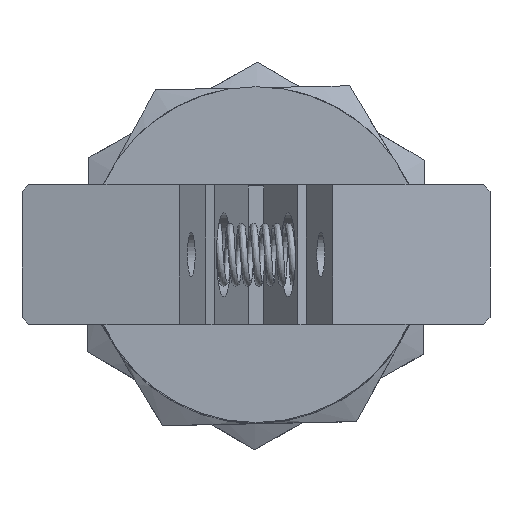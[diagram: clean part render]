
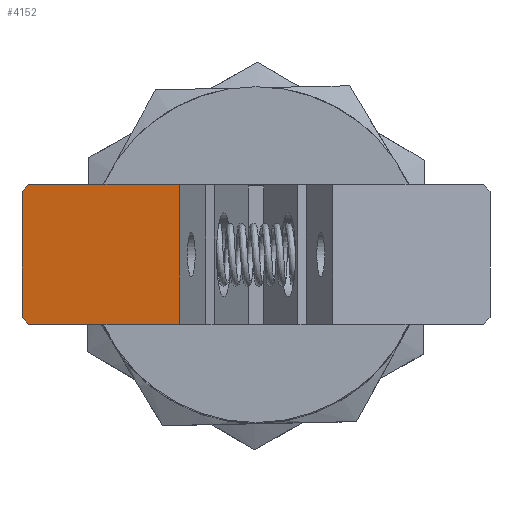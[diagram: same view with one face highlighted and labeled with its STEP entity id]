
A CAD part, top view. The second image highlights one B-rep face of the part: STEP entity #4152.
In plain terms, the highlighted planar face has unit normal (-0.174, 0, 0.985).
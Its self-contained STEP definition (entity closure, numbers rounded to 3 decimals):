
#110 = EDGE_CURVE ( 'NONE', #2118, #4668, #4459, .T. ) ;
#139 = CARTESIAN_POINT ( 'NONE',  ( -2.748, 2.5, 25.118 ) ) ;
#164 = VERTEX_POINT ( 'NONE', #471 ) ;
#208 = DIRECTION ( 'NONE',  ( 0.696, -0.707, 0.123 ) ) ;
#235 = VECTOR ( 'NONE', #896, 1000. ) ;
#455 = CARTESIAN_POINT ( 'NONE',  ( -8.361, -2.5, 24.129 ) ) ;
#471 = CARTESIAN_POINT ( 'NONE',  ( -8.115, -2.5, 24.172 ) ) ;
#473 = VECTOR ( 'NONE', #1783, 1000. ) ;
#662 = ORIENTED_EDGE ( 'NONE', *, *, #1898, .F. ) ;
#896 = DIRECTION ( 'NONE',  ( 0.985, 0., 0.174 ) ) ;
#928 = PLANE ( 'NONE',  #3067 ) ;
#1117 = CARTESIAN_POINT ( 'NONE',  ( -8.115, 2.5, 24.172 ) ) ;
#1253 = DIRECTION ( 'NONE',  ( 0.174, 0., -0.985 ) ) ;
#1265 = LINE ( 'NONE', #455, #2475 ) ;
#1703 = VERTEX_POINT ( 'NONE', #4942 ) ;
#1783 = DIRECTION ( 'NONE',  ( 0., -1., 0. ) ) ;
#1801 = VERTEX_POINT ( 'NONE', #3747 ) ;
#1898 = EDGE_CURVE ( 'NONE', #1703, #1801, #3823, .T. ) ;
#1961 = CARTESIAN_POINT ( 'NONE',  ( -8.361, 2.25, 24.129 ) ) ;
#2118 = VERTEX_POINT ( 'NONE', #1961 ) ;
#2210 = VERTEX_POINT ( 'NONE', #1117 ) ;
#2247 = LINE ( 'NONE', #4817, #3343 ) ;
#2304 = EDGE_CURVE ( 'NONE', #2210, #2118, #4071, .T. ) ;
#2475 = VECTOR ( 'NONE', #3323, 1000. ) ;
#2950 = EDGE_CURVE ( 'NONE', #2210, #1703, #3699, .T. ) ;
#2982 = CARTESIAN_POINT ( 'NONE',  ( -8.361, 2.5, 24.129 ) ) ;
#3067 = AXIS2_PLACEMENT_3D ( 'NONE', #5071, #1253, #4655 ) ;
#3071 = ORIENTED_EDGE ( 'NONE', *, *, #2950, .F. ) ;
#3207 = CARTESIAN_POINT ( 'NONE',  ( -8.361, -2.25, 24.129 ) ) ;
#3323 = DIRECTION ( 'NONE',  ( 0.985, 0., 0.174 ) ) ;
#3343 = VECTOR ( 'NONE', #208, 1000. ) ;
#3582 = EDGE_CURVE ( 'NONE', #164, #1801, #1265, .T. ) ;
#3619 = DIRECTION ( 'NONE',  ( 0., -1., 0. ) ) ;
#3682 = ORIENTED_EDGE ( 'NONE', *, *, #3582, .T. ) ;
#3699 = LINE ( 'NONE', #2982, #235 ) ;
#3747 = CARTESIAN_POINT ( 'NONE',  ( -2.748, -2.5, 25.118 ) ) ;
#3823 = LINE ( 'NONE', #139, #473 ) ;
#3830 = FACE_OUTER_BOUND ( 'NONE', #3924, .T. ) ;
#3859 = ORIENTED_EDGE ( 'NONE', *, *, #2304, .T. ) ;
#3896 = EDGE_CURVE ( 'NONE', #4668, #164, #2247, .T. ) ;
#3924 = EDGE_LOOP ( 'NONE', ( #5050, #4950, #3682, #662, #3071, #3859 ) ) ;
#4071 = LINE ( 'NONE', #4521, #4463 ) ;
#4152 = ADVANCED_FACE ( 'NONE', ( #3830 ), #928, .F. ) ;
#4459 = LINE ( 'NONE', #4895, #5298 ) ;
#4463 = VECTOR ( 'NONE', #4465, 1000. ) ;
#4465 = DIRECTION ( 'NONE',  ( -0.696, -0.707, -0.123 ) ) ;
#4521 = CARTESIAN_POINT ( 'NONE',  ( -8.115, 2.5, 24.172 ) ) ;
#4655 = DIRECTION ( 'NONE',  ( -0.985, 0., -0.174 ) ) ;
#4668 = VERTEX_POINT ( 'NONE', #3207 ) ;
#4817 = CARTESIAN_POINT ( 'NONE',  ( -8.361, -2.25, 24.129 ) ) ;
#4895 = CARTESIAN_POINT ( 'NONE',  ( -8.361, 2.5, 24.129 ) ) ;
#4942 = CARTESIAN_POINT ( 'NONE',  ( -2.748, 2.5, 25.118 ) ) ;
#4950 = ORIENTED_EDGE ( 'NONE', *, *, #3896, .T. ) ;
#5050 = ORIENTED_EDGE ( 'NONE', *, *, #110, .T. ) ;
#5071 = CARTESIAN_POINT ( 'NONE',  ( -8.361, 2.5, 24.129 ) ) ;
#5298 = VECTOR ( 'NONE', #3619, 1000. ) ;
